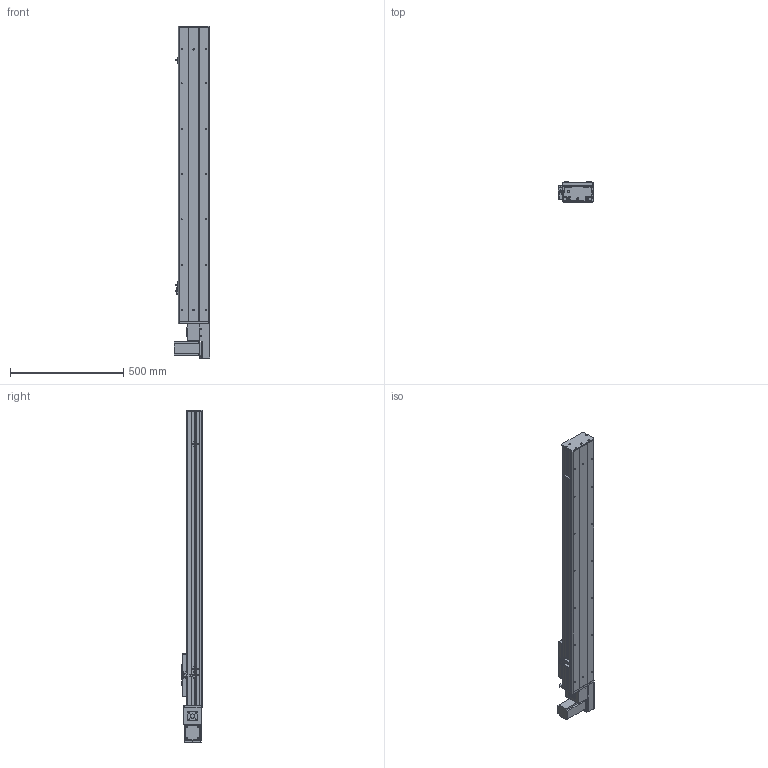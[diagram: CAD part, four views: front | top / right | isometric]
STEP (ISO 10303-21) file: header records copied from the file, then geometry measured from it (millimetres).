
FILE_DESCRIPTION (( 'STEP AP203' ), '1' );
FILE_NAME ('Y135CB-D90-S1000-BL-P400W.STEP', '2020-02-17T09:04:47', ( '微软用户' ), ( '微软中国' ), 'SwSTEP 2.0', 'SolidWorks 2017', '' );
FILE_SCHEMA (( 'CONFIG_CONTROL_DESIGN' ));
Length unit declared in the file: millimetre
Products named in the file (18): 5CB --掛极耜裔啣-; C-詩湍揤踡え-陔; Y10B--々湍喘謫眊--666; 135CB--詩湍-CE; Y10B-耜蚾蟀諉啣----; Y100-135俋离換覜ん--; Y俋欶BR----; Y135CB-耜裔; Y135C-陔俋离換覜結え-; 0B-埴倛裔啣; 135CB---遴掛极.-; 5C--俋欶; 0B-源倛裔啣; 35CB---喘謫眊楊擘啣; C-雄赽釱--; 0B-萇儂楊擘啣; Y135CB-D90-S1000-BL-P400W; san松下电机400不带刹车----
Assembly tree (21 placements, depth 2):
  Y135CB-D90-S1000-BL-P400W
    Y135CB-耜裔
    135CB---遴掛极.-
    35CB---喘謫眊楊擘啣
    Y10B--々湍喘謫眊--666
    Y10B-耜蚾蟀諉啣----
    Y俋欶BR----
    0B-埴倛裔啣
    0B-源倛裔啣
    0B-萇儂楊擘啣
    san松下电机400不带刹车----
    5CB --掛极耜裔啣-  x2
    C-詩湍揤踡え-陔  x2
    135CB--詩湍-CE
    Y100-135俋离換覜ん--  x3
    Y135C-陔俋离換覜結え-
    5C--俋欶
    C-雄赽釱--
Bounding box: 157.5 x 91 x 1464.5 mm (x, y, z)
Volume: 4387302.3 mm3; surface area: 1717325.5 mm2
Topology: 21 solids, 21 shells, 945 faces, 2527 edges, 1674 vertices
Faces by surface type: cylinder 471, plane 458, cone 16
Entity records: 29341 total; most frequent: DIRECTION 4871, CARTESIAN_POINT 4812, ORIENTED_EDGE 4530, EDGE_CURVE 2265, AXIS2_PLACEMENT_3D 1773, VERTEX_POINT 1502, VECTOR 1325, LINE 1325
